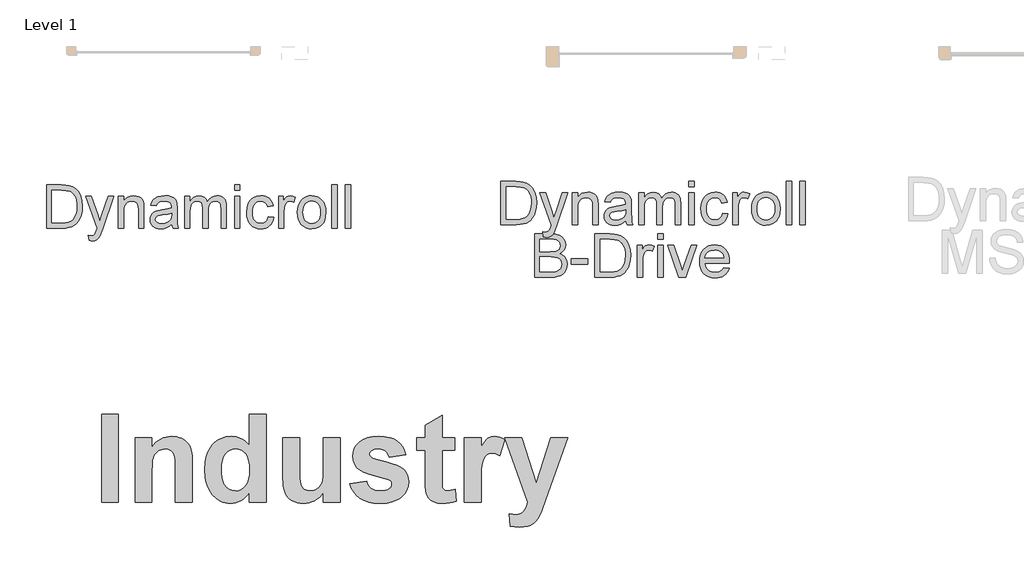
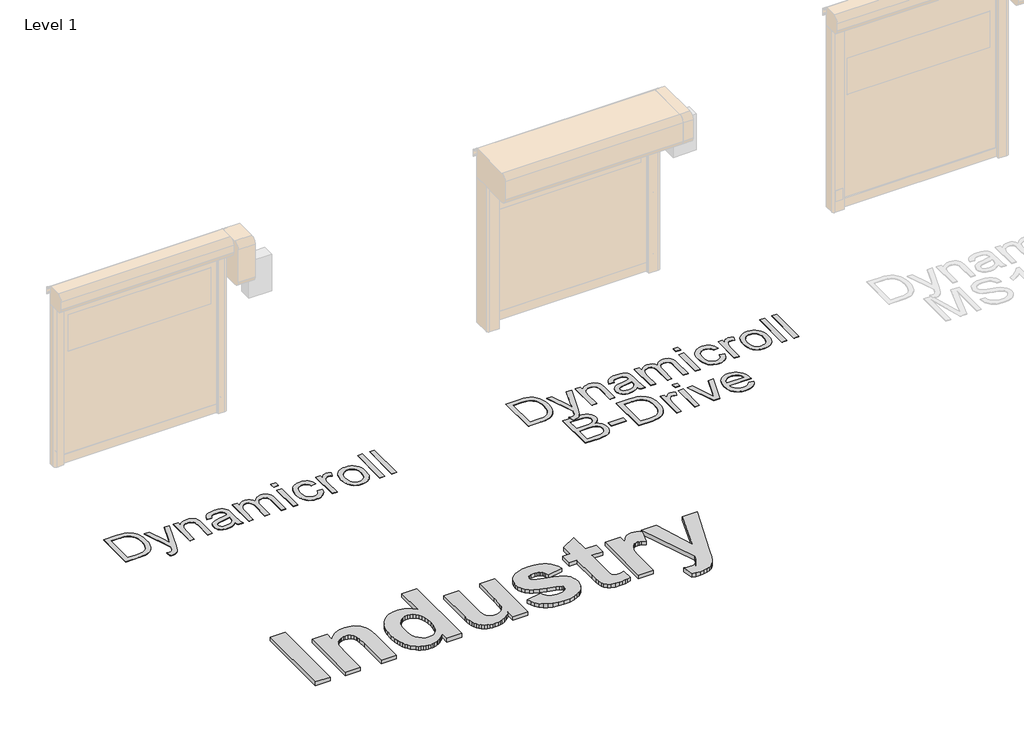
# One storey, part 6 of 20: 3 proxies.
"""IFC4 building model written with IfcOpenShell, lengths in millimetres."""

import ifcopenshell
import ifcopenshell.guid

model = None  # the IFC model being written
_history = None  # IfcOwnerHistory: only IFC2X3 demands one
_inside = {}  # id of a spatial element -> (the spatial element, [elements in it])
_under = {}  # id of a project, library or spatial element -> (it, [spatial elements below it])
_declared = {}  # id of a project -> (the project, [libraries it declares])
_typed = {}  # id of a type object -> (the type object, [elements of that type])
_made_of = {}  # id of a material, layer set ... -> (it, [elements and type objects made of it])


def new_model(schema):
    """Start an empty IFC model of exactly this schema.

    Asked for "IFC4X3", IfcOpenShell would pick the latest addendum, in which some entities
    have other attributes; the version numbers below select the first issue.
    IFC2X3 requires an IfcOwnerHistory on every rooted entity: one is made here for all.
    """
    global model, _history
    if schema == "IFC4X3":
        model = ifcopenshell.file(schema_version=(4, 3, 0, 0))
    else:
        model = ifcopenshell.file(schema=schema)
    _inside.clear()
    _under.clear()
    _declared.clear()
    _typed.clear()
    _made_of.clear()
    _history = None
    if model.schema == "IFC2X3":
        org = make("IfcOrganization", Name="unknown")
        user = make(
            "IfcPersonAndOrganization",
            ThePerson=make("IfcPerson", FamilyName="unknown"),
            TheOrganization=org,
        )
        app = make(
            "IfcApplication",
            ApplicationDeveloper=org,
            Version="unknown",
            ApplicationFullName="unknown",
            ApplicationIdentifier="unknown",
        )
        _history = make(
            "IfcOwnerHistory",
            OwningUser=user,
            OwningApplication=app,
            ChangeAction="ADDED",
            CreationDate=0,
        )
    return model


def make(cls, **values):
    """One entity of the class cls with the attributes given. An attribute that is None is left unset."""
    return model.create_entity(
        cls, **{name: value for name, value in values.items() if value is not None}
    )


def rooted(cls, **values):
    """An entity with a GlobalId (a new one), such as an element, a storey or a relation."""
    return make(cls, GlobalId=ifcopenshell.guid.new(), OwnerHistory=_history, **values)


def si_unit(unit_type, name, prefix=None):
    """IfcSIUnit, for example si_unit("LENGTHUNIT", "METRE", prefix="MILLI")."""
    return make("IfcSIUnit", UnitType=unit_type, Prefix=prefix, Name=name)


def assignment(units):
    """IfcUnitAssignment: the units of a project."""
    return None if units is None else make("IfcUnitAssignment", Units=units)


def point(xyz):
    """IfcCartesianPoint."""
    return None if xyz is None else make("IfcCartesianPoint", Coordinates=xyz)


def direction(xyz):
    """IfcDirection."""
    return None if xyz is None else make("IfcDirection", DirectionRatios=xyz)


def frame(location, z_axis=None, x_axis=None):
    """IfcAxis2Placement3D, a coordinate frame: its origin and axes. An axis left out is left unset."""
    return make(
        "IfcAxis2Placement3D",
        Location=point(location),
        Axis=direction(z_axis),
        RefDirection=direction(x_axis),
    )


def origin():
    """The frame at (0, 0, 0) with its axes left unset."""
    return frame((0.0, 0.0, 0.0))


def origin_with_axes():
    """The frame at (0, 0, 0) with the z axis (0, 0, 1) and the x axis (1, 0, 0) written out."""
    return frame((0.0, 0.0, 0.0), z_axis=(0.0, 0.0, 1.0), x_axis=(1.0, 0.0, 0.0))


def place(relative_to, where):
    """IfcLocalPlacement: puts the frame where relative to a parent placement (None: the world)."""
    return make(
        "IfcLocalPlacement", PlacementRelTo=relative_to, RelativePlacement=where
    )


def context(
    kind, dimensions, precision=None, world=None, true_north=None, identifier=None
):
    """IfcGeometricRepresentationContext, for example the 3D "Model" context."""
    return make(
        "IfcGeometricRepresentationContext",
        ContextIdentifier=identifier,
        ContextType=kind,
        CoordinateSpaceDimension=dimensions,
        Precision=precision,
        WorldCoordinateSystem=world,
        TrueNorth=true_north,
    )


def project(units=None, contexts=None):
    """IfcProject with its units and contexts."""
    return rooted(
        "IfcProject",
        Name="project",
        RepresentationContexts=contexts,
        UnitsInContext=assignment(units),
    )


def spatial(cls, under=None, at=None, **own):
    """A site, building, storey or space (cls), placed at a placement, below another one or the project."""
    s = rooted(cls, ObjectPlacement=at, **own)
    if under is not None:
        _under.setdefault(under.id(), (under, []))[1].append(s)
    return s


def polyline(points):
    """IfcPolyline through the points."""
    return make("IfcPolyline", Points=[point(p) for p in points])


def outline(outer, holes=None, kind="AREA"):
    """IfcArbitraryClosedProfileDef: a profile drawn as a closed curve; with holes, ...WithVoids."""
    if holes is None:
        return make("IfcArbitraryClosedProfileDef", ProfileType=kind, OuterCurve=outer)
    return make(
        "IfcArbitraryProfileDefWithVoids",
        ProfileType=kind,
        OuterCurve=outer,
        InnerCurves=holes,
    )


def extrude(swept, where, along, depth):
    """IfcExtrudedAreaSolid: the profile swept, set in the frame where, extruded along a direction by depth."""
    return make(
        "IfcExtrudedAreaSolid",
        SweptArea=swept,
        Position=where,
        ExtrudedDirection=direction(along),
        Depth=depth,
    )


def shape(context_of_items, identifier, shape_type, items):
    """IfcShapeRepresentation: the items that make up one representation, for example the "Body"."""
    return make(
        "IfcShapeRepresentation",
        ContextOfItems=context_of_items,
        RepresentationIdentifier=identifier,
        RepresentationType=shape_type,
        Items=items,
    )


def made_of(thing, what):
    """Note that an element or type object is made of a material, layer set ...; save() writes the relation."""
    if what is not None:
        _made_of.setdefault(what.id(), (what, []))[1].append(thing)
    return thing


def element(
    cls,
    number,
    at=None,
    inside=None,
    cuts=None,
    type_object=None,
    material=None,
    context=None,
    identifier="Body",
    shape_type=None,
    held_by="IfcProductDefinitionShape",
    body=None,
    shapes=None,
    **own,
):
    """One element of the class cls, such as IfcWall. Its Tag is "e" and its number.

    at: its placement. inside: the storey or other place that contains it. cuts: it is an
    opening in that element (IfcRelVoidsElement). A single representation is given by context,
    identifier, shape_type and body (its items); several are given by shapes. held_by: the class
    of the entity that holds the representations. save() writes the other relations.
    """
    e = rooted(cls, Tag="e%d" % number, ObjectPlacement=at, **own)
    if body is not None:
        shapes = [shape(context, identifier, shape_type, body)]
    if shapes is not None:
        e.Representation = make(held_by, Representations=shapes)
    if inside is not None:
        _inside.setdefault(inside.id(), (inside, []))[1].append(e)
    if cuts is not None:
        rooted(
            "IfcRelVoidsElement", RelatingBuildingElement=cuts, RelatedOpeningElement=e
        )
    if type_object is not None:
        _typed.setdefault(type_object.id(), (type_object, []))[1].append(e)
    return made_of(e, material)


def aggregate(whole, parts):
    """IfcRelAggregates: a whole, such as a stair, and the parts it consists of."""
    return rooted("IfcRelAggregates", RelatingObject=whole, RelatedObjects=parts)


def save(model, path):
    """Write the relations noted so far, then the file.

    IfcRelAggregates (storeys below a building ...), IfcRelContainedInSpatialStructure (elements
    in a storey), IfcRelDefinesByType, IfcRelAssociatesMaterial and IfcRelDeclares: one each for
    every whole, place, type object, material and project.
    """
    for whole, parts in _under.values():
        aggregate(whole, parts)
    for where, things in _inside.values():
        rooted(
            "IfcRelContainedInSpatialStructure",
            RelatedElements=things,
            RelatingStructure=where,
        )
    for kind, things in _typed.values():
        rooted("IfcRelDefinesByType", RelatedObjects=things, RelatingType=kind)
    for what, things in _made_of.values():
        rooted("IfcRelAssociatesMaterial", RelatedObjects=things, RelatingMaterial=what)
    for by, libraries in _declared.values():
        rooted("IfcRelDeclares", RelatingContext=by, RelatedDefinitions=libraries)
    model.write(path)


model = new_model("IFC4")

# Units and contexts
model_context = context("Model", 3, world=origin())
ifc_project = project(units=[si_unit("LENGTHUNIT", "METRE", prefix="MILLI")], contexts=[model_context])

# Site, building, storey
site = spatial("IfcSite", under=ifc_project)
building = spatial("IfcBuilding", under=site)
storey = spatial("IfcBuildingStorey", under=building, Name="Level 1", Elevation=0.0)

# Proxies
placement = place(None, origin())
element("IfcBuildingElementProxy", 1, Name="1000", ObjectType="1000", at=placement, inside=storey, context=model_context, shape_type="SweptSolid", body=[
    extrude(outline(polyline([(770.1824605, 15939.6667942), (770.1824605, 16959.9261942), (964.5175843, 16959.9261942), (964.5175843, 15939.6667942), (770.1824605, 15939.6667942)])), origin_with_axes(), (0.0, 0.0, 1.0), 50.0),
    extrude(outline(polyline([(1822.8310478, 15939.6667942), (1628.495924, 15939.6667942), (1628.495924, 16322.5171097), (1625.4594377, 16422.7211579), (1621.6638298, 16456.6918485), (1616.3499787, 16479.9083168), (1600.3451655, 16511.6016426), (1576.6226162, 16535.3241919), (1546.3210132, 16550.1270627), (1510.579039, 16555.0613529), (1486.4215763, 16553.2979767), (1463.5451312, 16548.0078483), (1441.9497039, 16539.1909674), (1421.6352942, 16526.8473343), (1403.5112665, 16511.5858276), (1388.4869853, 16494.0153261), (1376.5624505, 16474.1358298), (1367.7376622, 16451.9473387), (1361.3721114, 16423.6621524), (1356.8252895, 16385.4925706), (1353.1878319, 16279.5002203), (1353.1878319, 15939.6667942), (1158.8527081, 15939.6667942), (1158.8527081, 16684.6181021), (1353.1878319, 16684.6181021), (1353.1878319, 16577.3289192), (1377.0250402, 16606.2704293), (1402.3567691, 16631.3530714), (1429.1830186, 16652.5768455), (1457.5037887, 16669.9417516), (1487.3190794, 16683.4477897), (1518.6288907, 16693.0949597), (1551.4332226, 16698.8832618), (1585.7320751, 16700.8126958), (1644.8170379, 16694.9295035), (1672.3668251, 16687.5755133), (1698.5881496, 16677.2799269), (1743.502843, 16650.5208913), (1761.31057, 16634.7216734), (1776.0185505, 16617.3093223), (1798.3177469, 16578.4359715), (1812.5829065, 16534.6915906), (1820.2690125, 16478.4849638), (1822.8310478, 16402.2248753), (1822.8310478, 15939.6667942)])), origin_with_axes(), (0.0, 0.0, 1.0), 50.0),
    extrude(outline(polyline([(2681.1445112, 15939.6667942), (2486.8093874, 15939.6667942), (2486.8093874, 16046.9559771), (2464.0752777, 16017.7060739), (2439.3959189, 15992.4573739), (2412.7713111, 15971.2098773), (2384.2014542, 15953.9635839), (2354.6036202, 15940.6236037), (2324.895081, 15931.0950464), (2295.0758365, 15925.377912), (2265.1458869, 15923.4722006), (2235.1388389, 15925.0853339), (2206.2269819, 15929.924734), (2178.410316, 15937.9904007), (2151.6888411, 15949.2823342), (2126.0625572, 15963.8005344), (2101.5314644, 15981.5450012), (2055.7548518, 16026.7127351), (2035.3238062, 16053.7999326), (2017.6169, 16083.441258), (2002.6341333, 16115.6367111), (1990.3755059, 16150.3862921), (1980.841018, 16187.6900008), (1974.0306695, 16227.5478374), (1968.5823906, 16314.9258939), (1974.0227619, 16403.7747486), (1980.8232261, 16443.9528395), (1990.3438759, 16481.3000396), (2002.5847113, 16515.8163489), (2017.5457324, 16547.5017672), (2035.2269391, 16576.3562947), (2055.6283315, 16602.3799312), (2078.1094007, 16625.4501104), (2102.0296379, 16645.4442657), (2127.3890431, 16662.3623971), (2154.1876163, 16676.2045046), (2182.4253575, 16686.9705883), (2212.1022666, 16694.660648), (2243.2183438, 16699.2746838), (2275.7735889, 16700.8126958), (2305.7509837, 16699.2193312), (2334.7004014, 16694.4392375), (2362.6218419, 16686.4724147), (2389.5153053, 16675.3188628), (2415.3807915, 16660.9785817), (2440.2183006, 16643.4515716), (2486.8093874, 16598.8373639), (2486.8093874, 16959.9261942), (2681.1445112, 16959.9261942), (2681.1445112, 15939.6667942)]), holes=[polyline([(2162.9175144, 16326.3127176), (2164.9418386, 16269.1888189), (2171.0148113, 16220.5417778), (2181.1364323, 16180.3715944), (2195.3067017, 16148.6782685), (2221.0377602, 16113.9168263), (2251.4184383, 16089.0872247), (2286.4487361, 16074.1894637), (2326.1286536, 16069.2235434), (2358.3913206, 16072.9479836), (2388.1235824, 16084.1213044), (2415.3254389, 16102.7435056), (2439.9968902, 16128.8145872), (2460.4773577, 16162.2871043), (2475.1062631, 16203.1136116), (2483.8836064, 16251.2941092), (2486.8093874, 16306.8285971), (2483.970589, 16368.2462772), (2475.4541938, 16420.4121631), (2461.2602019, 16463.3262548), (2441.3886131, 16496.9885522), (2417.073, 16522.3954025), (2389.5469353, 16540.5431527), (2358.810419, 16551.4318029), (2324.8634509, 16555.0613529), (2291.8416623, 16551.4713405), (2261.6033195, 16540.7013031), (2234.1484224, 16522.7512408), (2209.4769712, 16497.6211536), (2189.1072089, 16465.3743016), (2174.5573786, 16426.0739449), (2165.8274805, 16379.7200836), (2162.9175144, 16326.3127176)])]), origin_with_axes(), (0.0, 0.0, 1.0), 50.0),
    extrude(outline(polyline([(3345.1228509, 15939.6667942), (3345.1228509, 16048.9803013), (3324.254915, 16021.3119014), (3300.3663079, 15996.7590628), (3273.4570295, 15975.3217858), (3243.5270798, 15957.0000702), (3211.636066, 15942.3316272), (3178.8435954, 15931.854168), (3145.1496679, 15925.5676924), (3110.5542835, 15923.4722006), (3075.9035465, 15925.5281548), (3043.0557232, 15931.6960176), (3012.0108137, 15941.975789), (2982.768818, 15956.3674689), (2956.3893432, 15974.4835891), (2933.9319965, 15995.9366811), (2915.396778, 16020.7267451), (2900.7836876, 16048.8537811), (2889.7131646, 16081.5039164), (2881.8056482, 16119.8632786), (2877.0611383, 16163.9318677), (2875.479635, 16213.7096836), (2875.479635, 16684.6181021), (3069.8147588, 16684.6181021), (3069.8147588, 16340.2299465), (3072.4400543, 16212.7291516), (3080.3159407, 16146.527424), (3095.1820716, 16114.6443178), (3118.7781006, 16090.0993868), (3150.5030565, 16074.4425043), (3189.7559681, 16069.2235434), (3213.6603902, 16070.963197), (3236.2837947, 16076.1821579), (3257.6261816, 16084.8804259), (3277.6875508, 16097.0580012), (3295.5743529, 16111.8213344), (3310.3930387, 16128.2768761), (3322.1436081, 16146.4246263), (3330.8260612, 16166.264585), (3337.0809067, 16194.4232511), (3341.5486535, 16237.5271231), (3345.1228509, 16368.5704854), (3345.1228509, 16684.6181021), (3539.4579747, 16684.6181021), (3539.4579747, 15939.6667942), (3345.1228509, 15939.6667942)])), origin_with_axes(), (0.0, 0.0, 1.0), 50.0),
    extrude(outline(polyline([(3652.8201302, 16150.1965117), (3847.155254, 16182.585699), (3854.8176375, 16156.4276346), (3865.6588425, 16133.6223572), (3879.6788691, 16114.1698668), (3896.8777174, 16098.0701633), (3917.5242428, 16085.4497671), (3941.8873009, 16076.4351984), (3969.9668917, 16071.0264572), (4001.7630153, 16069.2235434), (4036.5402726, 16070.947382), (4066.7311703, 16076.1188977), (4092.3357085, 16084.7380906), (4113.3538872, 16096.8049607), (4124.4244102, 16107.2428824), (4132.3319266, 16119.3255675), (4137.0764365, 16133.053016), (4138.6579398, 16148.425228), (4135.3051528, 16168.5419498), (4125.2467919, 16184.8630637), (4102.2833642, 16198.2109514), (4061.7336199, 16210.4201568), (3957.3702181, 16235.8190996), (3874.0408099, 16260.1426201), (3811.7453955, 16283.3907184), (3770.4839747, 16305.5633945), (3733.1763122, 16338.6009981), (3706.5279818, 16377.4901639), (3690.5389836, 16422.2308919), (3685.2093175, 16472.823182), (3689.779862, 16519.1137832), (3703.4914955, 16561.5771465), (3726.344218, 16600.2132717), (3758.3380295, 16635.0221591), (3799.947381, 16663.8055189), (3851.6467234, 16684.3650616), (3913.4360568, 16696.7007872), (3985.3153811, 16700.8126958), (4053.7470283, 16697.4915389), (4112.784546, 16687.5280682), (4162.4279341, 16670.9222837), (4202.6771928, 16647.6741853), (4235.4617559, 16617.9102935), (4262.7110575, 16581.7571284), (4284.4250976, 16539.21469), (4300.6038763, 16490.2829783), (4106.2687525, 16457.893791), (4091.9719627, 16499.4556974), (4081.502411, 16516.108927), (4068.8187546, 16530.0103409), (4053.573063, 16540.9701586), (4035.4174052, 16548.7985999), (4014.3517815, 16553.4956647), (3990.3761916, 16555.0613529), (3935.0235766, 16549.7475019), (3914.2268084, 16543.1051881), (3898.0163997, 16533.8059487), (3884.1624309, 16516.3461525), (3879.5444413, 16494.3316267), (3884.1624309, 16475.2903272), (3898.0163997, 16459.1589936), (3918.0619539, 16448.5471066), (3953.4006448, 16435.9425254), (4069.957437, 16404.7552806), (4137.9699858, 16386.1409869), (4194.8645665, 16365.470739), (4240.6411792, 16342.7445367), (4275.2998237, 16317.9623803), (4300.5406161, 16289.1948355), (4318.5697536, 16255.27159), (4329.3872361, 16216.1926438), (4332.9930636, 16171.9579969), (4327.7661952, 16122.7653372), (4312.0855901, 16077.1626899), (4285.9512483, 16035.1500551), (4249.3631698, 15996.7274328), (4227.2003781, 15979.5582377), (4202.52695, 15964.6782687), (4145.6481843, 15941.7860086), (4078.7268727, 15928.0506526), (4001.7630153, 15923.4722006), (3931.2516913, 15927.2836235), (3868.5055484, 15938.7178922), (3813.5245867, 15957.7750068), (3766.3088061, 15984.4549673), (3726.7158713, 16017.6823513), (3694.6034471, 16056.3817367), (3669.9715334, 16100.5531235), (3652.8201302, 16150.1965117)])), origin_with_axes(), (0.0, 0.0, 1.0), 50.0),
    extrude(outline(polyline([(4867.414654, 16684.6181021), (4867.414654, 16538.8667593), (4721.6633112, 16538.8667593), (4721.6633112, 16219.2765752), (4722.7703635, 16142.5736658), (4726.0915204, 16106.2939804), (4733.3348054, 16091.6176299), (4746.2082422, 16079.7247252), (4763.6047783, 16071.8488389), (4784.4173615, 16069.2235434), (4822.8795215, 16073.9047931), (4875.5119508, 16087.9485423), (4883.6092477, 15949.7884152), (4847.2821172, 15938.2750713), (4808.6459919, 15930.0512542), (4767.7008718, 15925.116964), (4724.4467569, 15923.4722006), (4672.6999694, 15928.02693), (4626.2670329, 15941.6911184), (4588.3425841, 15962.5669618), (4562.1212596, 15988.7566562), (4544.8196137, 16022.7273468), (4533.6542005, 16066.9461787), (4528.9096906, 16119.7683884), (4527.3281874, 16208.3958326), (4527.3281874, 16538.8667593), (4430.1606255, 16538.8667593), (4430.1606255, 16684.6181021), (4527.3281874, 16684.6181021), (4527.3281874, 16830.369445), (4721.6633112, 16943.7316005), (4721.6633112, 16684.6181021), (4867.414654, 16684.6181021)])), origin_with_axes(), (0.0, 0.0, 1.0), 50.0),
    extrude(outline(polyline([(5175.1119334, 15939.6667942), (4980.7768096, 15939.6667942), (4980.7768096, 16684.6181021), (5175.1119334, 16684.6181021), (5175.1119334, 16580.8714865), (5216.1677587, 16641.8858833), (5235.0350929, 16662.9277845), (5252.7953748, 16677.6594877), (5289.6127713, 16695.0243937), (5331.2379378, 16700.8126958), (5361.8400264, 16698.2506604), (5391.9044038, 16690.5645545), (5421.4310702, 16677.7543779), (5450.4200254, 16659.8201306), (5393.7389476, 16474.8475062), (5346.9264504, 16498.5700555), (5324.8486645, 16504.5006929), (5303.6565205, 16506.477572), (5266.3014128, 16500.9423105), (5249.9723914, 16494.0232336), (5235.2090582, 16484.336526), (5221.9718757, 16471.0439908), (5210.2213063, 16453.3074315), (5191.1800067, 16404.5022401), (5184.1502246, 16367.7481037), (5179.1289517, 16315.1789345), (5175.1119334, 16162.5954974), (5175.1119334, 15939.6667942)])), origin_with_axes(), (0.0, 0.0, 1.0), 50.0),
    extrude(outline(polyline([(5450.4200254, 16684.6181021), (5644.7551492, 16684.6181021), (5814.7983825, 16157.2816464), (5984.8416159, 16684.6181021), (6179.1767397, 16684.6181021), (5927.148376, 15970.7907789), (5880.3358787, 15838.1975434), (5856.6449595, 15783.7305702), (5834.1559828, 15743.8134273), (5810.5915838, 15714.2709459), (5783.6743979, 15690.9279574), (5751.8229217, 15672.93045), (5713.455652, 15659.4244119), (5669.1419299, 15650.9791844), (5619.4510966, 15648.1641085), (5566.8186673, 15650.9475543), (5515.1984, 15659.2978916), (5499.0038064, 15803.2779508), (5539.6800709, 15796.2560762), (5576.1811667, 15793.9154514), (5605.7631857, 15796.4853942), (5631.2491111, 15804.1952227), (5652.6389431, 15817.0449369), (5669.9326815, 15835.0345368), (5696.8498675, 15881.7521439), (5716.6186585, 15939.6667942), (5450.4200254, 16684.6181021)])), origin_with_axes(), (0.0, 0.0, 1.0), 50.0),
])
element("IfcBuildingElementProxy", 2, Name="500mm", ObjectType="500mm", at=placement, inside=storey, context=model_context, shape_type="SweptSolid", body=[
    extrude(outline(polyline([(5402.5904997, 19157.9917402), (5402.5904997, 19660.2732909), (5575.8629195, 19660.2732909), (5627.6423103, 19658.4645378), (5665.5034989, 19653.0382784), (5705.5413228, 19639.0894194), (5739.3251526, 19617.1084702), (5757.9415144, 19599.1435661), (5774.0593444, 19578.8487427), (5787.6786424, 19556.224), (5798.7994085, 19531.269338), (5813.6066588, 19475.289961), (5818.5424089, 19411.8303169), (5815.2008142, 19357.9202762), (5805.1760298, 19310.4788272), (5789.908927, 19270.0884498), (5770.8403769, 19237.3316238), (5748.8900845, 19211.4725852), (5724.9777548, 19191.7755701), (5697.5245609, 19177.1675892), (5664.951676, 19166.5756534), (5627.1977862, 19160.1377185), (5584.201578, 19157.9917402), (5402.5904997, 19157.9917402)]), holes=[polyline([(5465.3756936, 19220.776934), (5576.4760561, 19220.776934), (5622.4306487, 19223.0455397), (5657.2874677, 19229.8513566), (5683.5910304, 19240.7958459), (5703.8858538, 19255.4804689), (5725.6981904, 19282.6577513), (5742.0842676, 19317.8364671), (5752.3389782, 19361.1699004), (5755.7572151, 19412.8113355), (5754.0825856, 19449.2623099), (5749.0586971, 19481.2373866), (5740.6855496, 19508.7365658), (5728.9631431, 19531.7598473), (5714.8418394, 19550.8283974), (5699.2720004, 19566.4633822), (5682.253626, 19578.6648017), (5663.7867163, 19587.4326559), (5627.6729671, 19594.9742368), (5574.7592735, 19597.4880971), (5465.3756936, 19597.4880971), (5465.3756936, 19220.776934)])]), origin_with_axes(), (0.0, 0.0, 1.0), 5.0),
    extrude(outline(polyline([(5897.0239012, 19016.725054), (5889.175752, 19077.1803286), (5921.0588583, 19071.6620987), (5937.8281459, 19073.3942097), (5950.8572999, 19078.5905429), (5961.0047116, 19086.8832162), (5969.1287723, 19097.9043476), (5986.2965987, 19144.1348517), (5991.201692, 19159.3406408), (5857.7831551, 19526.854754), (5924.0019142, 19526.854754), (5994.7578846, 19322.06711), (6019.4059783, 19240.1520524), (6044.054072, 19312.5021782), (6116.7720797, 19526.854754), (6182.5003295, 19526.854754), (6054.1095132, 19149.1625723), (6020.754879, 19067.2475147), (6003.679023, 19041.0972362), (5984.3345614, 19022.979048), (5961.8631029, 19012.4024406), (5935.4062561, 19008.8769048), (5917.2267541, 19010.8389421), (5897.0239012, 19016.725054)])), origin_with_axes(), (0.0, 0.0, 1.0), 5.0),
    extrude(outline(polyline([(6234.4943182, 19157.9917402), (6234.4943182, 19526.854754), (6297.279512, 19526.854754), (6297.279512, 19475.3512747), (6319.0918486, 19501.3176122), (6345.2881124, 19519.8649961), (6375.8683032, 19530.9934265), (6410.8324212, 19534.7029033), (6441.780494, 19531.713862), (6470.1227361, 19522.7467384), (6493.7591543, 19508.9205068), (6510.5897555, 19491.3541415), (6522.0094258, 19470.0936278), (6529.413051, 19445.1849511), (6532.7239889, 19384.4844219), (6532.7239889, 19157.9917402), (6469.9387951, 19157.9917402), (6469.9387951, 19376.023136), (6468.1300419, 19408.4887221), (6462.7037825, 19431.5733173), (6452.6943265, 19448.1126786), (6437.1359838, 19460.9425632), (6417.193714, 19469.1739229), (6394.0324767, 19471.9177094), (6374.9677588, 19470.3772036), (6357.2596056, 19465.755686), (6340.9080174, 19458.0531567), (6325.912994, 19447.2696157), (6313.3858456, 19432.1787897), (6304.4378825, 19411.5544054), (6299.0691046, 19385.3964627), (6297.279512, 19353.7049616), (6297.279512, 19157.9917402), (6234.4943182, 19157.9917402)])), origin_with_axes(), (0.0, 0.0, 1.0), 5.0),
    extrude(outline(polyline([(6854.4981074, 19205.0806356), (6824.5003963, 19179.3595527), (6793.6136372, 19162.5289515), (6761.1327227, 19153.2399311), (6726.3525457, 19150.143591), (6698.3973462, 19152.0059936), (6673.8833761, 19157.5932014), (6652.8106356, 19166.9052144), (6635.1791246, 19179.9420326), (6621.2570903, 19195.8759215), (6611.3127801, 19213.8791466), (6605.346194, 19233.951708), (6603.357332, 19256.0936056), (6606.3617016, 19282.1212567), (6615.3748105, 19305.7576749), (6629.2776842, 19325.9911847), (6646.9513484, 19341.8101104), (6667.7213527, 19353.7662753), (6690.9132468, 19362.4115022), (6745.2371548, 19371.8538067), (6809.432563, 19381.7866206), (6854.1302254, 19393.4362171), (6854.4981074, 19407.4157329), (6850.1754939, 19435.4360782), (6837.2076536, 19453.7688643), (6824.1325143, 19461.708984), (6808.2062896, 19467.3804981), (6767.8005838, 19471.9177094), (6730.3992477, 19468.8980114), (6704.279626, 19459.8389172), (6686.4680061, 19443.084958), (6673.9906751, 19416.9806648), (6611.2054812, 19424.828814), (6622.1039853, 19459.1644669), (6638.3674352, 19486.1424799), (6661.5133441, 19506.7745285), (6693.0592251, 19522.0722881), (6731.6408494, 19531.5452495), (6775.8939877, 19534.7029033), (6818.3383729, 19531.9131315), (6851.9842471, 19523.5438161), (6877.3527763, 19510.9591861), (6894.9651268, 19495.5234708), (6906.6453802, 19476.4395923), (6914.2176179, 19452.910473), (6917.2833012, 19397.9734284), (6917.2833012, 19319.8598181), (6920.4716118, 19210.7828065), (6925.1927641, 19183.8201219), (6932.9795997, 19157.9917402), (6870.1944058, 19157.9917402), (6860.1389646, 19179.8194052), (6854.4981074, 19205.0806356)]), holes=[polyline([(6854.4981074, 19330.6510233), (6812.3143052, 19320.1970432), (6753.2079314, 19311.3985322), (6699.1905917, 19301.2204636), (6685.1344338, 19294.2613626), (6674.7264391, 19284.6657739), (6668.2885041, 19273.1694615), (6666.1425258, 19260.5081895), (6670.8176929, 19241.8381783), (6684.8431939, 19226.5404186), (6707.9124607, 19216.3316933), (6739.7189249, 19212.9287848), (6773.4414411, 19216.6842468), (6803.2398827, 19227.9506329), (6827.397467, 19244.551308), (6844.1974115, 19264.3096368), (6851.6470219, 19284.6657739), (6854.1302254, 19312.8700602), (6854.4981074, 19330.6510233)])]), origin_with_axes(), (0.0, 0.0, 1.0), 5.0),
    extrude(outline(polyline([(7003.6129427, 19157.9917402), (7003.6129427, 19526.854754), (7066.3981366, 19526.854754), (7066.3981366, 19466.1542248), (7085.2827457, 19494.0366144), (7109.5629574, 19515.8796078), (7138.4110371, 19529.9970794), (7170.9992505, 19534.7029033), (7205.9173833, 19529.9051089), (7233.9070717, 19515.5117258), (7254.8150318, 19492.4731159), (7268.4879793, 19461.7396409), (7291.373305, 19493.6610682), (7317.4775983, 19516.4620877), (7346.800859, 19530.1426994), (7379.3430871, 19534.7029033), (7404.477858, 19532.8060117), (7426.5392814, 19527.1153371), (7445.5273573, 19517.6308794), (7461.4420857, 19504.3526386), (7474.0228836, 19487.1273306), (7483.0091677, 19465.8016712), (7488.4009382, 19440.3756604), (7490.198195, 19410.8492982), (7490.198195, 19157.9917402), (7427.4130012, 19157.9917402), (7427.4130012, 19383.8712852), (7425.9568016, 19415.1872401), (7421.5882029, 19436.2944695), (7413.4028285, 19450.7491663), (7400.4963019, 19462.1075229), (7383.8956268, 19469.4651628), (7364.6278073, 19471.9177094), (7346.8353479, 19470.3465467), (7330.6140512, 19465.6330587), (7315.9639172, 19457.7772452), (7302.8849458, 19446.7791064), (7292.1282296, 19432.3167455), (7284.4448608, 19414.0682657), (7279.8348396, 19392.033667), (7278.2981658, 19366.2129495), (7278.2981658, 19157.9917402), (7215.512972, 19157.9917402), (7215.512972, 19390.8610431), (7211.8801373, 19426.3616557), (7200.9816332, 19451.6841997), (7192.5548362, 19460.5363602), (7181.8057842, 19466.859332), (7153.3409148, 19471.9177094), (7129.1526736, 19468.5454578), (7106.8651561, 19458.4287029), (7088.4710563, 19441.8126995), (7075.9630685, 19418.9427021), (7068.7893696, 19387.21288), (7066.3981366, 19344.0174024), (7066.3981366, 19157.9917402), (7003.6129427, 19157.9917402)])), origin_with_axes(), (0.0, 0.0, 1.0), 5.0),
    extrude(outline(polyline([(7584.3759858, 19597.4880971), (7584.3759858, 19660.2732909), (7647.1611796, 19660.2732909), (7647.1611796, 19597.4880971), (7584.3759858, 19597.4880971)])), origin_with_axes(), (0.0, 0.0, 1.0), 5.0),
    extrude(outline(polyline([(7584.3759858, 19157.9917402), (7584.3759858, 19526.854754), (7647.1611796, 19526.854754), (7647.1611796, 19157.9917402), (7584.3759858, 19157.9917402)])), origin_with_axes(), (0.0, 0.0, 1.0), 5.0),
    extrude(outline(polyline([(7976.7834473, 19291.4102771), (8039.5686412, 19283.5621279), (8032.7398316, 19253.936131), (8022.0635896, 19227.7207067), (8007.539915, 19204.9158551), (7989.1688078, 19185.5215762), (7967.7243532, 19170.0437076), (7943.9806361, 19158.9880873), (7917.9376565, 19152.354715), (7889.5954145, 19150.143591), (7854.3822097, 19153.2284348), (7822.8095039, 19162.4829662), (7794.877297, 19177.9071853), (7770.585589, 19199.501092), (7750.9230628, 19226.8584833), (7736.8784012, 19259.5731561), (7728.4516043, 19297.6451105), (7725.6426719, 19341.0743465), (7730.4404663, 19396.9464245), (7744.8338494, 19445.3688921), (7755.6863682, 19466.3190053), (7769.0527474, 19484.4716825), (7784.9329868, 19499.8269237), (7803.3270866, 19512.3847289), (7844.3306006, 19529.1233597), (7888.7370231, 19534.7029033), (7916.592588, 19532.7868512), (7941.7886725, 19527.038695), (7964.3252768, 19517.4584347), (7984.2024009, 19504.0460703), (8001.0828195, 19487.1081701), (8014.6293076, 19466.9513025), (8024.841865, 19443.5754674), (8031.7204919, 19416.9806648), (7968.9352981, 19409.1325156), (7957.5462846, 19436.5243958), (7939.8113068, 19456.1600973), (7916.7113832, 19467.9783064), (7889.2275325, 19471.9177094), (7867.8942088, 19469.9786647), (7848.6532141, 19464.1615307), (7831.5045482, 19454.4663073), (7816.4482111, 19440.8929945), (7804.18931, 19423.1273598), (7795.4329521, 19400.8551707), (7790.1791374, 19374.0764271), (7788.4278658, 19342.7911291), (7790.1408163, 19311.0344823), (7795.2796679, 19283.9453383), (7803.8444206, 19261.5236971), (7815.8350744, 19243.7695587), (7830.5925074, 19230.2767201), (7847.4575976, 19220.6389783), (7866.4303451, 19214.8563332), (7887.5107498, 19212.9287848), (7920.0223211, 19217.7419076), (7946.6784374, 19232.1812759), (7957.4581463, 19243.1027726), (7966.0688842, 19256.6147717), (7976.7834473, 19291.4102771)])), origin_with_axes(), (0.0, 0.0, 1.0), 5.0),
    extrude(outline(polyline([(8094.5056858, 19157.9917402), (8094.5056858, 19526.854754), (8149.4427304, 19526.854754), (8149.4427304, 19472.2855914), (8169.7375538, 19503.923443), (8188.4382219, 19522.5627974), (8207.2002036, 19531.6678768), (8227.678968, 19534.7029033), (8258.9489376, 19529.8591236), (8290.7094165, 19515.3277848), (8269.7401428, 19459.0418396), (8247.6672231, 19468.698742), (8225.5943034, 19471.9177094), (8206.84765, 19468.8213693), (8190.0936909, 19459.5323489), (8176.5586991, 19444.7557554), (8167.4689481, 19425.196696), (8159.8353967, 19390.1252791), (8157.2908796, 19351.8655516), (8157.2908796, 19157.9917402), (8094.5056858, 19157.9917402)])), origin_with_axes(), (0.0, 0.0, 1.0), 5.0),
    extrude(outline(polyline([(8314.2538642, 19342.4232471), (8317.6491085, 19390.194257), (8327.8348412, 19431.3587194), (8344.8110624, 19465.9166344), (8368.5777722, 19493.8680018), (8392.5054303, 19511.7332712), (8418.9162919, 19524.4941779), (8447.8103569, 19532.1507219), (8479.1876254, 19534.7029033), (8513.8260145, 19531.5950668), (8545.1458014, 19522.2715575), (8573.1469862, 19506.7323753), (8597.8295688, 19484.9775202), (8617.9749402, 19457.7427563), (8632.3644911, 19425.7638474), (8640.9982217, 19389.0407937), (8643.8761319, 19347.573595), (8638.7870976, 19284.1446077), (8632.4258048, 19258.1092923), (8623.5199948, 19235.8600958), (8612.1807988, 19216.6420937), (8598.5193476, 19199.7003614), (8582.5356413, 19185.0348989), (8564.2296799, 19172.6457063), (8523.5020774, 19155.7691198), (8479.1876254, 19150.143591), (8444.0433985, 19153.2399311), (8412.4323717, 19162.5289515), (8384.3545448, 19178.0106521), (8359.809918, 19199.685033), (8339.8791444, 19227.1842121), (8325.6428777, 19260.1403075), (8317.1011176, 19298.5533192), (8314.2538642, 19342.4232471)]), holes=[polyline([(8377.0390581, 19342.5458744), (8378.8554754, 19312.092143), (8384.3047275, 19285.7234346), (8393.3868142, 19263.4397492), (8406.1017357, 19245.2410867), (8421.5681079, 19231.1044546), (8438.9045469, 19221.0068603), (8458.1110528, 19214.9483037), (8479.1876254, 19212.9287848), (8500.1568991, 19214.9598), (8519.2867629, 19221.0528455), (8536.5772166, 19231.2079214), (8552.0282604, 19245.4250277), (8564.7431819, 19263.8037991), (8573.8252687, 19286.4438702), (8579.2745207, 19313.3452411), (8581.0909381, 19344.5079117), (8579.2630244, 19373.9959529), (8573.7792834, 19399.6748826), (8564.6397151, 19421.5447008), (8551.8443194, 19439.6054075), (8536.3357941, 19453.7420396), (8519.0568366, 19463.8396339), (8500.0074471, 19469.8981905), (8479.1876254, 19471.9177094), (8458.1110528, 19469.9058547), (8438.9045469, 19463.8702908), (8421.5681079, 19453.8110175), (8406.1017357, 19439.7280348), (8393.3868142, 19421.5830218), (8384.3047275, 19399.3376574), (8378.8554754, 19372.9919416), (8377.0390581, 19342.5458744)])]), origin_with_axes(), (0.0, 0.0, 1.0), 5.0),
    extrude(outline(polyline([(8714.509475, 19157.9917402), (8714.509475, 19660.2732909), (8777.2946688, 19660.2732909), (8777.2946688, 19157.9917402), (8714.509475, 19157.9917402)])), origin_with_axes(), (0.0, 0.0, 1.0), 5.0),
    extrude(outline(polyline([(8871.4724596, 19157.9917402), (8871.4724596, 19660.2732909), (8934.2576534, 19660.2732909), (8934.2576534, 19157.9917402), (8871.4724596, 19157.9917402)])), origin_with_axes(), (0.0, 0.0, 1.0), 5.0),
    extrude(outline(polyline([(5794.9979613, 18548.117651), (5794.9979613, 19050.3992017), (5986.6644807, 19050.3992017), (6039.378905, 19046.7050533), (6080.5357032, 19035.6226082), (6112.0815843, 19016.8759549), (6135.9632571, 18990.1891818), (6151.0004337, 18958.7965849), (6156.0128259, 18925.93246), (6151.7975113, 18895.6894943), (6139.1515677, 18867.2552818), (6117.9830246, 18842.3772619), (6088.1999114, 18822.802874), (6107.1496663, 18814.7247986), (6123.777166, 18804.2248333), (6138.0824107, 18791.3029782), (6150.0654003, 18775.9592333), (6166.2981933, 18739.876141), (6171.7091243, 18697.845623), (6168.0149759, 18662.8201914), (6156.9325308, 18630.3392769), (6140.3931695, 18602.7174704), (6120.3282723, 18582.2693628), (6095.7568207, 18567.4621125), (6065.697796, 18556.7628779), (6029.1701796, 18550.2789577), (5985.1929528, 18548.117651), (5794.9979613, 18548.117651)]), holes=[polyline([(5857.7831551, 18846.3473217), (5972.4397103, 18846.3473217), (6012.5388477, 18847.6962224), (6039.3942334, 18851.7429243), (6062.8313822, 18861.0472731), (6079.6773119, 18874.9808037), (6089.840052, 18893.3289182), (6093.227632, 18915.8770188), (6090.0699782, 18937.7659975), (6080.5970168, 18956.8345476), (6065.2379435, 18971.71844), (6044.421954, 18981.0534456), (6012.4775341, 18985.9738673), (5963.7331697, 18987.6140079), (5857.7831551, 18987.6140079), (5857.7831551, 18846.3473217)]), polyline([(5857.7831551, 18610.9028448), (5986.5418534, 18610.9028448), (6033.1402395, 18613.3553914), (6054.7686351, 18618.7969793), (6072.5649266, 18627.0283389), (6087.0349518, 18638.8158912), (6098.6845483, 18654.9260569), (6106.3640849, 18674.6384005), (6108.9239305, 18697.2324863), (6105.9195608, 18723.4747353), (6096.906452, 18746.0381644), (6081.1641682, 18763.6811717), (6057.9722741, 18775.1621557), (6025.1234777, 18781.4621348), (5980.4104868, 18783.5621279), (5857.7831551, 18783.5621279), (5857.7831551, 18610.9028448)])]), origin_with_axes(), (0.0, 0.0, 1.0), 5.0),
    extrude(outline(polyline([(6218.7980197, 18697.2324863), (6218.7980197, 18760.0176802), (6415.0017505, 18760.0176802), (6415.0017505, 18697.2324863), (6218.7980197, 18697.2324863)])), origin_with_axes(), (0.0, 0.0, 1.0), 5.0),
    extrude(outline(polyline([(6493.4832428, 18548.117651), (6493.4832428, 19050.3992017), (6666.7556625, 19050.3992017), (6718.5350533, 19048.5904486), (6756.396242, 19043.1641891), (6796.4340658, 19029.2153302), (6830.2178957, 19007.2343809), (6848.8342575, 18989.2694768), (6864.9520874, 18968.9746534), (6878.5713854, 18946.3499107), (6889.6921516, 18921.3952487), (6904.4994019, 18865.4158718), (6909.435152, 18801.9562276), (6906.0935572, 18748.0461869), (6896.0687728, 18700.604738), (6880.80167, 18660.2143606), (6861.7331199, 18627.4575346), (6839.7828276, 18601.598496), (6815.8704979, 18581.9014809), (6788.417304, 18567.2935), (6755.844419, 18556.7015642), (6718.0905292, 18550.2636293), (6675.094321, 18548.117651), (6493.4832428, 18548.117651)]), holes=[polyline([(6556.2684366, 18610.9028448), (6667.3687991, 18610.9028448), (6713.3233917, 18613.1714504), (6748.1802108, 18619.9772674), (6774.4837734, 18630.9217567), (6794.7785968, 18645.6063797), (6816.5909334, 18672.7836621), (6832.9770106, 18707.9623779), (6843.2317213, 18751.2958112), (6846.6499581, 18802.9372463), (6844.9753286, 18839.3882206), (6839.9514401, 18871.3632974), (6831.5782926, 18898.8624765), (6819.8558861, 18921.8857581), (6805.7345825, 18940.9543081), (6790.1647435, 18956.5892929), (6773.1463691, 18968.7907124), (6754.6794593, 18977.5585667), (6718.5657101, 18985.1001476), (6665.6520165, 18987.6140079), (6556.2684366, 18987.6140079), (6556.2684366, 18610.9028448)])]), origin_with_axes(), (0.0, 0.0, 1.0), 5.0),
    extrude(outline(polyline([(6987.9166443, 18548.117651), (6987.9166443, 18916.9806648), (7042.8536889, 18916.9806648), (7042.8536889, 18862.4115022), (7063.1485123, 18894.0493538), (7081.8491804, 18912.6887082), (7100.6111621, 18921.7937876), (7121.0899265, 18924.828814), (7152.3598961, 18919.9850344), (7184.120375, 18905.4536956), (7163.1511013, 18849.1677504), (7141.0781816, 18858.8246527), (7119.0052619, 18862.0436202), (7100.2586086, 18858.9472801), (7083.5046494, 18849.6582597), (7069.9696576, 18834.8816662), (7060.8799067, 18815.3226068), (7053.2463553, 18780.2511899), (7050.7018381, 18741.9914624), (7050.7018381, 18548.117651), (6987.9166443, 18548.117651)])), origin_with_axes(), (0.0, 0.0, 1.0), 5.0),
    extrude(outline(polyline([(7223.3611212, 18987.6140079), (7223.3611212, 19050.3992017), (7286.146315, 19050.3992017), (7286.146315, 18987.6140079), (7223.3611212, 18987.6140079)])), origin_with_axes(), (0.0, 0.0, 1.0), 5.0),
    extrude(outline(polyline([(7223.3611212, 18548.117651), (7223.3611212, 18916.9806648), (7286.146315, 18916.9806648), (7286.146315, 18548.117651), (7223.3611212, 18548.117651)])), origin_with_axes(), (0.0, 0.0, 1.0), 5.0),
    extrude(outline(polyline([(7470.8230766, 18548.117651), (7341.0833596, 18916.9806648), (7407.5473734, 18916.9806648), (7486.1514931, 18696.006213), (7509.8185681, 18621.69405), (7532.9951338, 18691.8368837), (7612.0897628, 18916.9806648), (7678.5537766, 18916.9806648), (7550.4082149, 18548.117651), (7470.8230766, 18548.117651)])), origin_with_axes(), (0.0, 0.0, 1.0), 5.0),
    extrude(outline(polyline([(7991.7439818, 18657.9917402), (8053.3029023, 18650.143591), (8043.8644299, 18625.4878331), (8031.1226837, 18603.7598027), (8015.0776637, 18584.9594999), (7995.7293701, 18569.0869247), (7973.277072, 18556.4793021), (7947.9200391, 18547.4738575), (7919.6582712, 18542.0705907), (7888.4917685, 18540.2695017), (7849.534598, 18543.3773382), (7814.8233989, 18552.7008475), (7784.3581712, 18568.2400297), (7758.1389148, 18589.9948847), (7737.054678, 18617.3599402), (7721.9945088, 18649.7297237), (7712.9584073, 18687.1042352), (7709.9463735, 18729.4834746), (7712.9890641, 18773.2997531), (7722.1171362, 18811.9196983), (7737.3305895, 18845.3433104), (7758.6294242, 18873.5705894), (7784.7797027, 18895.9960627), (7814.5474874, 18912.0142579), (7847.9327785, 18921.625175), (7884.9355759, 18924.828814), (7920.7465888, 18921.6328392), (7953.1317007, 18912.0449147), (7982.0909115, 18896.0650405), (8007.6242212, 18873.6932167), (8028.4670355, 18845.5272514), (8043.35476, 18812.164953), (8052.2873947, 18773.6063214), (8055.2649396, 18729.8513566), (8054.8970576, 18712.9287848), (7772.7315673, 18712.9287848), (7776.3682341, 18687.8744881), (7783.5994146, 18665.9318599), (7794.4251087, 18647.1009003), (7808.8453165, 18631.3816092), (7826.0629603, 18618.9885845), (7845.2809625, 18610.136424), (7866.4993229, 18604.8251277), (7889.7180418, 18603.0546956), (7923.1339897, 18606.3349767), (7951.2769623, 18616.1758201), (7974.1469597, 18633.1903623), (7991.7439818, 18657.9917402)]), holes=[polyline([(7772.7315673, 18775.7139786), (7992.4797458, 18775.7139786), (7983.9878031, 18808.8846719), (7967.3411428, 18832.6130606), (7950.2193016, 18845.4889304), (7930.7368843, 18854.6859803), (7908.8938908, 18860.2042102), (7884.6903212, 18862.0436202), (7842.3685633, 18856.1728367), (7823.955303, 18848.8343573), (7807.3737885, 18838.5604862), (7793.4594185, 18825.8264042), (7783.0475916, 18811.1072923), (7776.1383079, 18794.4031504), (7772.7315673, 18775.7139786)])]), origin_with_axes(), (0.0, 0.0, 1.0), 5.0),
])
element("IfcBuildingElementProxy", 3, Name="500mm", ObjectType="500mm", at=placement, inside=storey, context=model_context, shape_type="SweptSolid", body=[
    extrude(outline(polyline([(132.2974666, 19116.7358376), (132.2974666, 19619.0173884), (305.5698863, 19619.0173884), (357.3492772, 19617.2086352), (395.2104658, 19611.7823758), (435.2482896, 19597.8335168), (469.0321195, 19575.8525676), (487.6484813, 19557.8876635), (503.7663112, 19537.5928401), (517.3856093, 19514.9680974), (528.5063754, 19490.0134354), (543.3136257, 19434.0340585), (548.2493758, 19370.5744143), (544.907781, 19316.6643736), (534.8829967, 19269.2229246), (519.6158939, 19228.8325473), (500.5473438, 19196.0757213), (478.5970514, 19170.2166827), (454.6847217, 19150.5196675), (427.2315278, 19135.9116866), (394.6586428, 19125.3197509), (356.9047531, 19118.8818159), (313.9085449, 19116.7358376), (132.2974666, 19116.7358376)]), holes=[polyline([(195.0826604, 19179.5210315), (306.183023, 19179.5210315), (352.1376156, 19181.7896371), (386.9944346, 19188.595454), (413.2979973, 19199.5399434), (433.5928207, 19214.2245664), (455.4051573, 19241.4018488), (471.7912345, 19276.5805645), (482.0459451, 19319.9139979), (485.464182, 19371.555433), (483.7895525, 19408.0064073), (478.765664, 19439.9814841), (470.3925165, 19467.4806632), (458.67011, 19490.5039447), (444.5488063, 19509.5724948), (428.9789673, 19525.2074796), (411.9605929, 19537.4088991), (393.4936832, 19546.1767533), (357.379934, 19553.7183342), (304.4662403, 19556.2321945), (195.0826604, 19556.2321945), (195.0826604, 19179.5210315)])]), origin_with_axes(), (0.0, 0.0, 1.0), 5.0),
    extrude(outline(polyline([(626.7308681, 18975.4691515), (618.8827189, 19035.924426), (650.7658251, 19030.4061961), (667.5351128, 19032.1383072), (680.5642668, 19037.3346404), (690.7116785, 19045.6273137), (698.8357392, 19056.6484451), (716.0035656, 19102.8789492), (720.9086589, 19118.0847383), (587.490122, 19485.5988515), (653.7088811, 19485.5988515), (724.4648515, 19280.8112075), (749.1129452, 19198.8961499), (773.7610389, 19271.2462756), (846.4790466, 19485.5988515), (912.2072964, 19485.5988515), (783.8164801, 19107.9066698), (750.4618458, 19025.9916122), (733.3859899, 18999.8413337), (714.0415283, 18981.7231454), (691.5700698, 18971.1465381), (665.113223, 18967.6210023), (646.933721, 18969.5830396), (626.7308681, 18975.4691515)])), origin_with_axes(), (0.0, 0.0, 1.0), 5.0),
    extrude(outline(polyline([(964.201285, 19116.7358376), (964.201285, 19485.5988515), (1026.9864789, 19485.5988515), (1026.9864789, 19434.0953721), (1048.7988155, 19460.0617096), (1074.9950792, 19478.6090936), (1105.5752701, 19489.7375239), (1140.5393881, 19493.4470007), (1171.4874609, 19490.4579595), (1199.8297029, 19481.4908359), (1223.4661211, 19467.6646042), (1240.2967224, 19450.0982389), (1251.7163927, 19428.8377253), (1259.1200178, 19403.9290485), (1262.4309558, 19343.2285193), (1262.4309558, 19116.7358376), (1199.6457619, 19116.7358376), (1199.6457619, 19334.7672335), (1197.8370088, 19367.2328195), (1192.4107494, 19390.3174147), (1182.4012934, 19406.8567761), (1166.8429507, 19419.6866607), (1146.9006809, 19427.9180203), (1123.7394436, 19430.6618069), (1104.6747256, 19429.121301), (1086.9665725, 19424.4997834), (1070.6149842, 19416.7972542), (1055.6199608, 19406.0137132), (1043.0928125, 19390.9228872), (1034.1448494, 19370.2985028), (1028.7760715, 19344.1405601), (1026.9864789, 19312.4490591), (1026.9864789, 19116.7358376), (964.201285, 19116.7358376)])), origin_with_axes(), (0.0, 0.0, 1.0), 5.0),
    extrude(outline(polyline([(1584.2050742, 19163.824733), (1554.2073632, 19138.1036502), (1523.320604, 19121.2730489), (1490.8396895, 19111.9840285), (1456.0595126, 19108.8876884), (1428.1043131, 19110.750091), (1403.590343, 19116.3372988), (1382.5176025, 19125.6493118), (1364.8860914, 19138.68613), (1350.9640572, 19154.6200189), (1341.019747, 19172.6232441), (1335.0531609, 19192.6958054), (1333.0642989, 19214.837703), (1336.0686685, 19240.8653542), (1345.0817774, 19264.5017724), (1358.9846511, 19284.7352821), (1376.6583153, 19300.5542079), (1397.4283196, 19312.5103727), (1420.6202137, 19321.1555996), (1474.9441217, 19330.5979042), (1539.1395298, 19340.530718), (1583.8371922, 19352.1803146), (1584.2050742, 19366.1598304), (1579.8824608, 19394.1801757), (1566.9146205, 19412.5129618), (1553.8394812, 19420.4530815), (1537.9132565, 19426.1245956), (1497.5075507, 19430.6618069), (1460.1062145, 19427.6421088), (1433.9865929, 19418.5830147), (1416.1749729, 19401.8290555), (1403.6976419, 19375.7247622), (1340.9124481, 19383.5729115), (1351.8109522, 19417.9085644), (1368.0744021, 19444.8865773), (1391.2203109, 19465.5186259), (1422.766192, 19480.8163855), (1461.3478163, 19490.2893469), (1505.6009546, 19493.4470007), (1548.0453398, 19490.6572289), (1581.6912139, 19482.2879135), (1607.0597432, 19469.7032836), (1624.6720937, 19454.2675682), (1636.3523471, 19435.1836897), (1643.9245848, 19411.6545704), (1646.9902681, 19356.7175258), (1646.9902681, 19278.6039155), (1650.1785787, 19169.526904), (1654.899731, 19142.5642194), (1662.6865665, 19116.7358376), (1599.9013727, 19116.7358376), (1589.8459315, 19138.5635027), (1584.2050742, 19163.824733)]), holes=[polyline([(1584.2050742, 19289.3951207), (1542.0212721, 19278.9411407), (1482.9148982, 19270.1426296), (1428.8975586, 19259.9645611), (1414.8414007, 19253.00546), (1404.4334059, 19243.4098713), (1397.995471, 19231.913559), (1395.8494927, 19219.252287), (1400.5246597, 19200.5822757), (1414.5501608, 19185.2845161), (1437.6194276, 19175.0757907), (1469.4258917, 19171.6728823), (1503.148408, 19175.4283443), (1532.9468496, 19186.6947304), (1557.1044339, 19203.2954054), (1573.9043784, 19223.0537342), (1581.3539888, 19243.4098713), (1583.8371922, 19271.6141576), (1584.2050742, 19289.3951207)])]), origin_with_axes(), (0.0, 0.0, 1.0), 5.0),
    extrude(outline(polyline([(1733.3199096, 19116.7358376), (1733.3199096, 19485.5988515), (1796.1051035, 19485.5988515), (1796.1051035, 19424.8983223), (1814.9897125, 19452.7807118), (1839.2699242, 19474.6237053), (1868.118004, 19488.7411768), (1900.7062174, 19493.4470007), (1935.6243501, 19488.6492064), (1963.6140386, 19474.2558233), (1984.5219987, 19451.2172133), (1998.1949461, 19420.4837383), (2021.0802719, 19452.4051656), (2047.1845652, 19475.2061851), (2076.5078259, 19488.8867968), (2109.050054, 19493.4470007), (2134.1848249, 19491.5501092), (2156.2462483, 19485.8594346), (2175.2343242, 19476.3749769), (2191.1490526, 19463.0967361), (2203.7298504, 19445.8714281), (2212.7161346, 19424.5457687), (2218.1079051, 19399.1197579), (2219.9051619, 19369.5933957), (2219.9051619, 19116.7358376), (2157.1199681, 19116.7358376), (2157.1199681, 19342.6153827), (2155.6637685, 19373.9313375), (2151.2951698, 19395.038567), (2143.1097954, 19409.4932637), (2130.2032687, 19420.8516203), (2113.6025937, 19428.2092602), (2094.3347742, 19430.6618069), (2076.5423148, 19429.0906442), (2060.3210181, 19424.3771561), (2045.670884, 19416.5213427), (2032.5919127, 19405.5232039), (2021.8351964, 19391.0608429), (2014.1518277, 19372.8123631), (2009.5418064, 19350.7777645), (2008.0051327, 19324.9570469), (2008.0051327, 19116.7358376), (1945.2199388, 19116.7358376), (1945.2199388, 19349.6051406), (1941.5871041, 19385.1057531), (1930.6886, 19410.4282971), (1922.2618031, 19419.2804576), (1911.512751, 19425.6034294), (1883.0478817, 19430.6618069), (1858.8596405, 19427.2895552), (1836.5721229, 19417.1728004), (1818.1780232, 19400.5567969), (1805.6700353, 19377.6867996), (1798.4963364, 19345.9569775), (1796.1051035, 19302.7614999), (1796.1051035, 19116.7358376), (1733.3199096, 19116.7358376)])), origin_with_axes(), (0.0, 0.0, 1.0), 5.0),
    extrude(outline(polyline([(2314.0829527, 19556.2321945), (2314.0829527, 19619.0173884), (2376.8681465, 19619.0173884), (2376.8681465, 19556.2321945), (2314.0829527, 19556.2321945)])), origin_with_axes(), (0.0, 0.0, 1.0), 5.0),
    extrude(outline(polyline([(2314.0829527, 19116.7358376), (2314.0829527, 19485.5988515), (2376.8681465, 19485.5988515), (2376.8681465, 19116.7358376), (2314.0829527, 19116.7358376)])), origin_with_axes(), (0.0, 0.0, 1.0), 5.0),
    extrude(outline(polyline([(2706.4904142, 19250.1543746), (2769.275608, 19242.3062253), (2762.4467985, 19212.6802284), (2751.7705564, 19186.4648041), (2737.2468818, 19163.6599525), (2718.8757747, 19144.2656736), (2697.4313201, 19128.7878051), (2673.687603, 19117.7321847), (2647.6446234, 19111.0988125), (2619.3023813, 19108.8876884), (2584.0891766, 19111.9725322), (2552.5164708, 19121.2270637), (2524.5842639, 19136.6512827), (2500.2925559, 19158.2451894), (2480.6300297, 19185.6025807), (2466.5853681, 19218.3172536), (2458.1585711, 19256.389208), (2455.3496388, 19299.8184439), (2460.1474332, 19355.6905219), (2474.5408162, 19404.1129895), (2485.3933351, 19425.0631027), (2498.7597142, 19443.2157799), (2514.6399537, 19458.5710211), (2533.0340535, 19471.1288263), (2574.0375675, 19487.8674571), (2618.44399, 19493.4470007), (2646.2995548, 19491.5309486), (2671.4956394, 19485.7827925), (2694.0322437, 19476.2025322), (2713.9093678, 19462.7901678), (2730.7897864, 19445.8522676), (2744.3362744, 19425.6953999), (2754.5488319, 19402.3195648), (2761.4274588, 19375.7247622), (2698.642265, 19367.876613), (2687.2532515, 19395.2684932), (2669.5182737, 19414.9041947), (2646.4183501, 19426.7224038), (2618.9344993, 19430.6618069), (2597.6011757, 19428.7227622), (2578.360181, 19422.9056281), (2561.211515, 19413.2104047), (2546.155178, 19399.6370919), (2533.8962769, 19381.8714573), (2525.139919, 19359.5992681), (2519.8861042, 19332.8205246), (2518.1348327, 19301.5352266), (2519.8477832, 19269.7785797), (2524.9866348, 19242.6894357), (2533.5513875, 19220.2677946), (2545.5420413, 19202.5136562), (2560.2994743, 19189.0208176), (2577.1645645, 19179.3830757), (2596.1373119, 19173.6004306), (2617.2177167, 19171.6728823), (2649.729288, 19176.486005), (2676.3854043, 19190.9253733), (2687.1651131, 19201.8468701), (2695.7758511, 19215.3588692), (2706.4904142, 19250.1543746)])), origin_with_axes(), (0.0, 0.0, 1.0), 5.0),
    extrude(outline(polyline([(2824.2126526, 19116.7358376), (2824.2126526, 19485.5988515), (2879.1496973, 19485.5988515), (2879.1496973, 19431.0296889), (2899.4445207, 19462.6675404), (2918.1451887, 19481.3068949), (2936.9071705, 19490.4119742), (2957.3859349, 19493.4470007), (2988.6559045, 19488.6032211), (3020.4163834, 19474.0718823), (2999.4471097, 19417.785937), (2977.37419, 19427.4428394), (2955.3012703, 19430.6618069), (2936.5546169, 19427.5654667), (2919.8006577, 19418.2764464), (2906.265666, 19403.4998529), (2897.175915, 19383.9407935), (2889.5423636, 19348.8693766), (2886.9978465, 19310.6096491), (2886.9978465, 19116.7358376), (2824.2126526, 19116.7358376)])), origin_with_axes(), (0.0, 0.0, 1.0), 5.0),
    extrude(outline(polyline([(3043.9608311, 19301.1673446), (3047.3560753, 19348.9383545), (3057.5418081, 19390.1028169), (3074.5180293, 19424.6607318), (3098.2847391, 19452.6120992), (3122.2123972, 19470.4773686), (3148.6232587, 19483.2382753), (3177.5173238, 19490.8948194), (3208.8945923, 19493.4470007), (3243.5329814, 19490.3391643), (3274.8527683, 19481.015655), (3302.8539531, 19465.4764728), (3327.5365357, 19443.7216177), (3347.6819071, 19416.4868537), (3362.071458, 19384.5079449), (3370.7051886, 19347.7848911), (3373.5830988, 19306.3176925), (3368.4940645, 19242.8887052), (3362.1327717, 19216.8533898), (3353.2269617, 19194.6041933), (3341.8877656, 19175.3861911), (3328.2263145, 19158.4444588), (3312.2426082, 19143.7789964), (3293.9366468, 19131.3898038), (3253.2090443, 19114.5132173), (3208.8945923, 19108.8876884), (3173.7503654, 19111.9840285), (3142.1393386, 19121.2730489), (3114.0615117, 19136.7547495), (3089.5168848, 19158.4291304), (3069.5861113, 19185.9283096), (3055.3498445, 19218.884405), (3046.8080845, 19257.2974166), (3043.9608311, 19301.1673446)]), holes=[polyline([(3106.7460249, 19301.2899719), (3108.5624423, 19270.8362405), (3114.0116943, 19244.4675321), (3123.0937811, 19222.1838466), (3135.8087026, 19203.9851842), (3151.2750748, 19189.8485521), (3168.6115138, 19179.7509577), (3187.8180196, 19173.6924011), (3208.8945923, 19171.6728823), (3229.863866, 19173.7038974), (3248.9937297, 19179.796943), (3266.2841835, 19189.9520189), (3281.7352273, 19204.1691252), (3294.4501488, 19222.5478965), (3303.5322355, 19245.1879676), (3308.9814876, 19272.0893385), (3310.7979049, 19303.2520092), (3308.9699913, 19332.7400504), (3303.4862503, 19358.4189801), (3294.346682, 19380.2887983), (3281.5512863, 19398.349505), (3266.042761, 19412.486137), (3248.7638035, 19422.5837314), (3229.7144139, 19428.642288), (3208.8945923, 19430.6618069), (3187.8180196, 19428.6499522), (3168.6115138, 19422.6143882), (3151.2750748, 19412.5551149), (3135.8087026, 19398.4721323), (3123.0937811, 19380.3271193), (3114.0116943, 19358.0817549), (3108.5624423, 19331.7360391), (3106.7460249, 19301.2899719)])]), origin_with_axes(), (0.0, 0.0, 1.0), 5.0),
    extrude(outline(polyline([(3444.2164419, 19116.7358376), (3444.2164419, 19619.0173884), (3507.0016357, 19619.0173884), (3507.0016357, 19116.7358376), (3444.2164419, 19116.7358376)])), origin_with_axes(), (0.0, 0.0, 1.0), 5.0),
    extrude(outline(polyline([(3601.1794265, 19116.7358376), (3601.1794265, 19619.0173884), (3663.9646203, 19619.0173884), (3663.9646203, 19116.7358376), (3601.1794265, 19116.7358376)])), origin_with_axes(), (0.0, 0.0, 1.0), 5.0),
])

save(model, "model.ifc")
